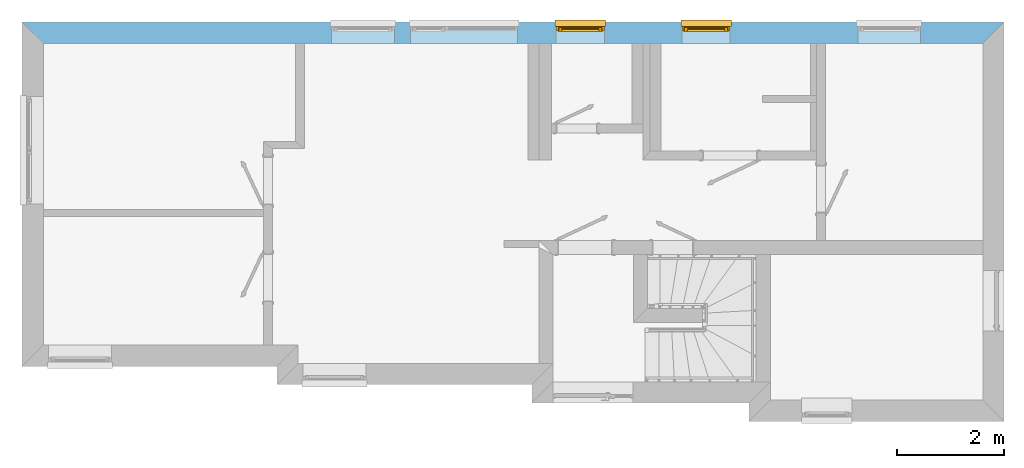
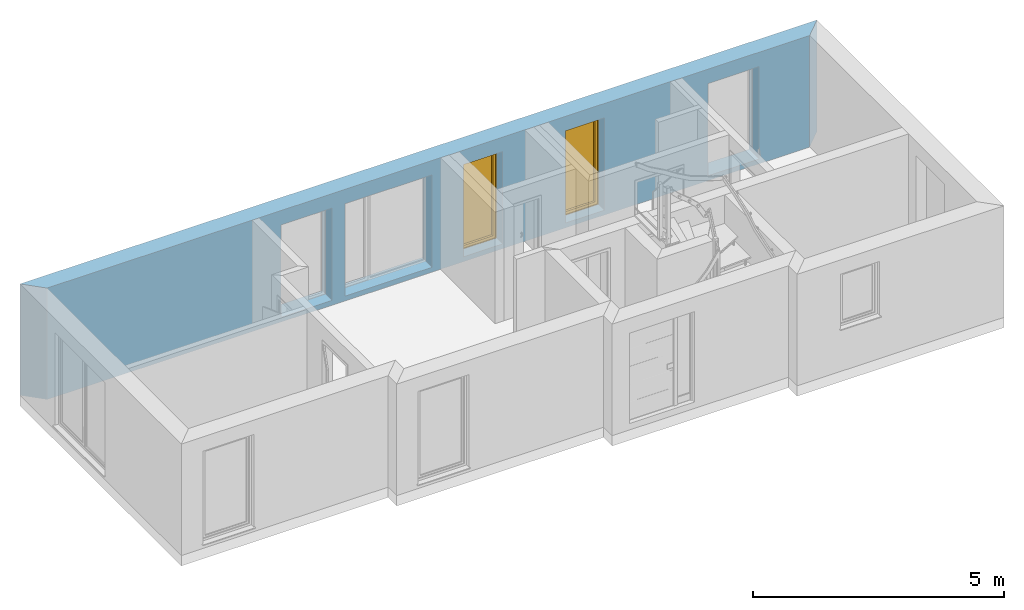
# One storey, part 9 of 13: 2 windows, 5 openings, plus 1 element that does not belong to this part.
"""IFC2X3 building model written with IfcOpenShell, lengths in millimetres."""

import ifcopenshell
import ifcopenshell.guid

model = None  # the IFC model being written
_history = None  # IfcOwnerHistory: only IFC2X3 demands one
_inside = {}  # id of a spatial element -> (the spatial element, [elements in it])
_under = {}  # id of a project, library or spatial element -> (it, [spatial elements below it])
_declared = {}  # id of a project -> (the project, [libraries it declares])
_typed = {}  # id of a type object -> (the type object, [elements of that type])
_made_of = {}  # id of a material, layer set ... -> (it, [elements and type objects made of it])


def new_model(schema):
    """Start an empty IFC model of exactly this schema.

    Asked for "IFC4X3", IfcOpenShell would pick the latest addendum, in which some entities
    have other attributes; the version numbers below select the first issue.
    IFC2X3 requires an IfcOwnerHistory on every rooted entity: one is made here for all.
    """
    global model, _history
    if schema == "IFC4X3":
        model = ifcopenshell.file(schema_version=(4, 3, 0, 0))
    else:
        model = ifcopenshell.file(schema=schema)
    _inside.clear()
    _under.clear()
    _declared.clear()
    _typed.clear()
    _made_of.clear()
    _history = None
    if model.schema == "IFC2X3":
        org = make("IfcOrganization", Name="unknown")
        user = make(
            "IfcPersonAndOrganization",
            ThePerson=make("IfcPerson", FamilyName="unknown"),
            TheOrganization=org,
        )
        app = make(
            "IfcApplication",
            ApplicationDeveloper=org,
            Version="unknown",
            ApplicationFullName="unknown",
            ApplicationIdentifier="unknown",
        )
        _history = make(
            "IfcOwnerHistory",
            OwningUser=user,
            OwningApplication=app,
            ChangeAction="ADDED",
            CreationDate=0,
        )
    return model


def make(cls, **values):
    """One entity of the class cls with the attributes given. An attribute that is None is left unset."""
    return model.create_entity(
        cls, **{name: value for name, value in values.items() if value is not None}
    )


def rooted(cls, **values):
    """An entity with a GlobalId (a new one), such as an element, a storey or a relation."""
    return make(cls, GlobalId=ifcopenshell.guid.new(), OwnerHistory=_history, **values)


def si_unit(unit_type, name, prefix=None):
    """IfcSIUnit, for example si_unit("LENGTHUNIT", "METRE", prefix="MILLI")."""
    return make("IfcSIUnit", UnitType=unit_type, Prefix=prefix, Name=name)


def assignment(units):
    """IfcUnitAssignment: the units of a project."""
    return None if units is None else make("IfcUnitAssignment", Units=units)


def point(xyz):
    """IfcCartesianPoint."""
    return None if xyz is None else make("IfcCartesianPoint", Coordinates=xyz)


def direction(xyz):
    """IfcDirection."""
    return None if xyz is None else make("IfcDirection", DirectionRatios=xyz)


def frame(location, z_axis=None, x_axis=None):
    """IfcAxis2Placement3D, a coordinate frame: its origin and axes. An axis left out is left unset."""
    return make(
        "IfcAxis2Placement3D",
        Location=point(location),
        Axis=direction(z_axis),
        RefDirection=direction(x_axis),
    )


def origin_with_axes():
    """The frame at (0, 0, 0) with the z axis (0, 0, 1) and the x axis (1, 0, 0) written out."""
    return frame((0.0, 0.0, 0.0), z_axis=(0.0, 0.0, 1.0), x_axis=(1.0, 0.0, 0.0))


def place(relative_to, where):
    """IfcLocalPlacement: puts the frame where relative to a parent placement (None: the world)."""
    return make(
        "IfcLocalPlacement", PlacementRelTo=relative_to, RelativePlacement=where
    )


def context(
    kind, dimensions, precision=None, world=None, true_north=None, identifier=None
):
    """IfcGeometricRepresentationContext, for example the 3D "Model" context."""
    return make(
        "IfcGeometricRepresentationContext",
        ContextIdentifier=identifier,
        ContextType=kind,
        CoordinateSpaceDimension=dimensions,
        Precision=precision,
        WorldCoordinateSystem=world,
        TrueNorth=true_north,
    )


def project(units=None, contexts=None):
    """IfcProject with its units and contexts."""
    return rooted(
        "IfcProject",
        Name="project",
        RepresentationContexts=contexts,
        UnitsInContext=assignment(units),
    )


def spatial(cls, under=None, at=None, **own):
    """A site, building, storey or space (cls), placed at a placement, below another one or the project."""
    s = rooted(cls, ObjectPlacement=at, **own)
    if under is not None:
        _under.setdefault(under.id(), (under, []))[1].append(s)
    return s


def faces_of(points, faces, orient=None, outer=None):
    """IfcFace entities. A face is a list of loops; a loop is a list of indices into points, from 0.

    orient and outer hold one flag for each loop. By default every Orientation is true, the
    first loop of a face is its IfcFaceOuterBound and the others are IfcFaceBound.
    """
    made = []
    for i, loops in enumerate(faces):
        bounds = []
        for j, loop in enumerate(loops):
            is_outer = j == 0 if outer is None else outer[i][j]
            bounds.append(
                make(
                    "IfcFaceOuterBound" if is_outer else "IfcFaceBound",
                    Bound=make("IfcPolyLoop", Polygon=[points[k] for k in loop]),
                    Orientation=True if orient is None else orient[i][j],
                )
            )
        made.append(make("IfcFace", Bounds=bounds))
    return made


def faceted_brep(points, faces, orient=None, outer=None, voids=None):
    """IfcFacetedBrep: a solid bounded by flat faces; with voids (closed shells), ...WithVoids."""
    shared = [point(p) for p in points]
    hull = make("IfcClosedShell", CfsFaces=faces_of(shared, faces, orient, outer))
    if voids is None:
        return make("IfcFacetedBrep", Outer=hull)
    return make(
        "IfcFacetedBrepWithVoids",
        Outer=hull,
        Voids=[
            make(cls, CfsFaces=faces_of(shared, fs, o, b)) for cls, fs, o, b in voids
        ],
    )


def shape(context_of_items, identifier, shape_type, items):
    """IfcShapeRepresentation: the items that make up one representation, for example the "Body"."""
    return make(
        "IfcShapeRepresentation",
        ContextOfItems=context_of_items,
        RepresentationIdentifier=identifier,
        RepresentationType=shape_type,
        Items=items,
    )


def material(Name=None, Category=None):
    """IfcMaterial."""
    return make("IfcMaterial", Name=Name, Category=Category)


def layer(
    of_material, thickness, ventilated=None, Name=None, Category=None, Priority=None
):
    """IfcMaterialLayer: one layer of a wall or slab, of a material (None: an air gap)."""
    return make(
        "IfcMaterialLayer",
        Material=of_material,
        LayerThickness=thickness,
        IsVentilated=ventilated,
        Name=Name,
        Category=Category,
        Priority=Priority,
    )


def layer_set(layers, Name=None):
    """IfcMaterialLayerSet."""
    return make("IfcMaterialLayerSet", MaterialLayers=layers, LayerSetName=Name)


def layer_usage(for_layer_set, set_direction, sense, offset, extent=None):
    """IfcMaterialLayerSetUsage: how a layer set lies in its element."""
    return make(
        "IfcMaterialLayerSetUsage",
        ForLayerSet=for_layer_set,
        LayerSetDirection=set_direction,
        DirectionSense=sense,
        OffsetFromReferenceLine=offset,
        ReferenceExtent=extent,
    )


def made_of(thing, what):
    """Note that an element or type object is made of a material, layer set ...; save() writes the relation."""
    if what is not None:
        _made_of.setdefault(what.id(), (what, []))[1].append(thing)
    return thing


def type_object(cls, material=None, **own):
    """A type object (cls), such as IfcWallType, which elements share."""
    return made_of(rooted(cls, **own), material)


def element(
    cls,
    number,
    at=None,
    inside=None,
    cuts=None,
    type_object=None,
    material=None,
    context=None,
    identifier="Body",
    shape_type=None,
    held_by="IfcProductDefinitionShape",
    body=None,
    shapes=None,
    **own,
):
    """One element of the class cls, such as IfcWall. Its Tag is "e" and its number.

    at: its placement. inside: the storey or other place that contains it. cuts: it is an
    opening in that element (IfcRelVoidsElement). A single representation is given by context,
    identifier, shape_type and body (its items); several are given by shapes. held_by: the class
    of the entity that holds the representations. save() writes the other relations.
    """
    e = rooted(cls, Tag="e%d" % number, ObjectPlacement=at, **own)
    if body is not None:
        shapes = [shape(context, identifier, shape_type, body)]
    if shapes is not None:
        e.Representation = make(held_by, Representations=shapes)
    if inside is not None:
        _inside.setdefault(inside.id(), (inside, []))[1].append(e)
    if cuts is not None:
        rooted(
            "IfcRelVoidsElement", RelatingBuildingElement=cuts, RelatedOpeningElement=e
        )
    if type_object is not None:
        _typed.setdefault(type_object.id(), (type_object, []))[1].append(e)
    return made_of(e, material)


def fill(opening, filler):
    """IfcRelFillsElement: the door or window that sits in an opening."""
    return rooted(
        "IfcRelFillsElement",
        RelatingOpeningElement=opening,
        RelatedBuildingElement=filler,
    )


def aggregate(whole, parts):
    """IfcRelAggregates: a whole, such as a stair, and the parts it consists of."""
    return rooted("IfcRelAggregates", RelatingObject=whole, RelatedObjects=parts)


def save(model, path):
    """Write the relations noted so far, then the file.

    IfcRelAggregates (storeys below a building ...), IfcRelContainedInSpatialStructure (elements
    in a storey), IfcRelDefinesByType, IfcRelAssociatesMaterial and IfcRelDeclares: one each for
    every whole, place, type object, material and project.
    """
    for whole, parts in _under.values():
        aggregate(whole, parts)
    for where, things in _inside.values():
        rooted(
            "IfcRelContainedInSpatialStructure",
            RelatedElements=things,
            RelatingStructure=where,
        )
    for kind, things in _typed.values():
        rooted("IfcRelDefinesByType", RelatedObjects=things, RelatingType=kind)
    for what, things in _made_of.values():
        rooted("IfcRelAssociatesMaterial", RelatedObjects=things, RelatingMaterial=what)
    for by, libraries in _declared.values():
        rooted("IfcRelDeclares", RelatingContext=by, RelatedDefinitions=libraries)
    model.write(path)


model = new_model("IFC2X3")

# Units and contexts
model_context = context("Model", 3, world=origin_with_axes())
ifc_project = project(units=[si_unit("LENGTHUNIT", "METRE", prefix="MILLI")], contexts=[model_context])

# Site, building, storey
site_placement = place(None, origin_with_axes())
site = spatial("IfcSite", under=ifc_project, at=site_placement, Name="Site", CompositionType="ELEMENT")
building_placement = place(site_placement, origin_with_axes())
building = spatial("IfcBuilding", under=site, at=building_placement, Name="?", CompositionType="ELEMENT")
storey_placement = place(building_placement, origin_with_axes())
storey = spatial("IfcBuildingStorey", under=building, at=storey_placement, Name="Erdgeschoß", CompositionType="ELEMENT", Elevation=0.0)

# Wall, openings, windows
ifc_material = material(Name="Material_AW")
ifc_layer = layer(ifc_material, 395.0, ventilated=False)
ifc_layer_set = layer_set([ifc_layer], Name="MaterialLayerSet_AW")
ifc_layer_usage = layer_usage(ifc_layer_set, "AXIS2", "NEGATIVE", 197.5)
wall_placement = place(storey_placement, frame((197.5, -197.5, 0.0), z_axis=(0.0, 0.0, 1.0), x_axis=(1.0, 0.0, 0.0)))
wall = element("IfcWall", 1, at=wall_placement, inside=storey, material=ifc_layer_usage, Name="AW-01", context=model_context, shape_type="Brep", body=[
    faceted_brep([(17707.5008600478, -197.5, 0.0), (17707.5008600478, -197.5, 2707.0), (197.5, -197.5, 2707.0), (197.5, -197.5, 0.0), (18102.5001275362, 197.499999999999, 0.0), (18102.5001275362, 197.499999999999, 150.0), (18102.5001275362, 197.499999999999, 2707.0), (17707.5008600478, -197.500000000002, 2707.0), (17707.5008600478, -197.500000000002, 0.0), (-197.500233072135, 197.5, 0.0), (-197.500233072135, 197.5, 150.0), (5569.5, 197.5, 150.0), (5569.5, 197.5, 116.0), (6739.5, 197.5, 116.0), (6739.5, 197.5, 150.0), (7039.5, 197.5, 150.0), (7039.5, 197.5, 116.0), (9039.5, 197.5, 116.0), (9039.5, 197.5, 150.0), (9755.5, 197.5, 150.0), (9755.5, 197.5, 116.0), (10655.5, 197.5, 116.0), (10655.5, 197.5, 150.0), (12099.5, 197.5, 150.0), (12099.5, 197.5, 116.0), (12999.5, 197.5, 116.0), (12999.5, 197.5, 150.0), (15377.5, 197.5, 150.0), (15377.5, 197.5, 116.0), (16547.5, 197.5, 116.0), (16547.5, 197.5, 150.0), (18102.5001275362, 197.5, 150.0), (18102.5001275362, 197.5, 0.0), (-197.500233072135, 197.5, 150.0), (-197.500233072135, 197.5, 2707.0), (18102.5001275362, 197.5, 2707.0), (18102.5001275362, 197.5, 150.0), (16547.5, 197.5, 150.0), (16547.5, 197.5, 116.0), (15377.5, 197.5, 116.0), (15377.5, 197.5, 150.0), (12999.5, 197.5, 150.0), (12999.5, 197.5, 116.0), (12099.5, 197.5, 116.0), (12099.5, 197.5, 150.0), (10655.5, 197.5, 150.0), (10655.5, 197.5, 116.0), (9755.5, 197.5, 116.0), (9755.5, 197.5, 150.0), (9039.5, 197.5, 150.0), (9039.5, 197.5, 116.0), (7039.5, 197.5, 116.0), (7039.5, 197.5, 150.0), (6739.5, 197.5, 150.0), (6739.5, 197.5, 116.0), (5569.5, 197.5, 116.0), (5569.5, 197.5, 150.0), (197.5, -197.5, 0.0), (197.5, -197.5, 2707.0), (-197.500233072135, 197.5, 2707.0), (-197.500233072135, 197.5, 150.0), (-197.500233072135, 197.5, 0.0), (197.5, -197.5, 0.0), (-197.500233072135, 197.5, 0.0), (18102.5001275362, 197.5, 0.0), (17707.5008600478, -197.5, 0.0), (-197.500233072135, 197.5, 2707.0), (197.5, -197.5, 2707.0), (17707.5008600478, -197.5, 2707.0), (18102.5001275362, 197.5, 2707.0)], [[[0, 1, 2, 3]], [[4, 5, 6, 7, 8]], [[9, 10, 11, 12, 13, 14, 15, 16, 17, 18, 19, 20, 21, 22, 23, 24, 25, 26, 27, 28, 29, 30, 31, 32]], [[33, 34, 35, 36, 37, 38, 39, 40, 41, 42, 43, 44, 45, 46, 47, 48, 49, 50, 51, 52, 53, 54, 55, 56]], [[57, 58, 59, 60, 61]], [[62, 63, 64, 65]], [[66, 67, 68, 69]]]),
])
opening_1_placement = place(wall_placement, frame((5569.5, 0.0, 116.0), z_axis=(0.0, 0.0, 1.0), x_axis=(1.0, 0.0, 0.0)))
element("IfcOpeningElement", 2, at=opening_1_placement, cuts=wall, Name="AW-01|FE01", context=model_context, shape_type="Brep", body=[
    faceted_brep([(0.0, 207.5, 0.0), (0.0, 207.5, 2244.0), (1170.0, 207.5, 2244.0), (1170.0, 207.5, 0.0), (0.0, -207.5, 0.0), (0.0, -207.5, 2244.0), (0.0, 207.5, 2244.0), (0.0, 207.5, 0.0), (1170.0, -207.5, 0.0), (0.0, -207.5, 0.0), (0.0, 207.5, 0.0), (1170.0, 207.5, 0.0), (1170.0, -207.5, 2244.0), (1170.0, -207.5, 0.0), (1170.0, 207.5, 0.0), (1170.0, 207.5, 2244.0), (0.0, -207.5, 2244.0), (1170.0, -207.5, 2244.0), (1170.0, 207.5, 2244.0), (0.0, 207.5, 2244.0), (0.0, -207.5, 0.0), (1170.0, -207.5, 0.0), (1170.0, -207.5, 2244.0), (0.0, -207.5, 2244.0)], [[[0, 1, 2, 3]], [[4, 5, 6, 7]], [[8, 9, 10, 11]], [[12, 13, 14, 15]], [[16, 17, 18, 19]], [[20, 21, 22, 23]]]),
])
opening_2_placement = place(wall_placement, frame((7039.5, 0.0, 116.0), z_axis=(0.0, 0.0, 1.0), x_axis=(1.0, 0.0, 0.0)))
element("IfcOpeningElement", 3, at=opening_2_placement, cuts=wall, Name="AW-01|FE02", context=model_context, shape_type="Brep", body=[
    faceted_brep([(0.0, 207.5, 0.0), (0.0, 207.5, 2244.0), (2000.0, 207.5, 2244.0), (2000.0, 207.5, 0.0), (0.0, -207.5, 0.0), (0.0, -207.5, 2244.0), (0.0, 207.5, 2244.0), (0.0, 207.5, 0.0), (2000.0, -207.5, 0.0), (0.0, -207.5, 0.0), (0.0, 207.5, 0.0), (2000.0, 207.5, 0.0), (2000.0, -207.5, 2244.0), (2000.0, -207.5, 0.0), (2000.0, 207.5, 0.0), (2000.0, 207.5, 2244.0), (0.0, -207.5, 2244.0), (2000.0, -207.5, 2244.0), (2000.0, 207.5, 2244.0), (0.0, 207.5, 2244.0), (0.0, -207.5, 0.0), (2000.0, -207.5, 0.0), (2000.0, -207.5, 2244.0), (0.0, -207.5, 2244.0)], [[[0, 1, 2, 3]], [[4, 5, 6, 7]], [[8, 9, 10, 11]], [[12, 13, 14, 15]], [[16, 17, 18, 19]], [[20, 21, 22, 23]]]),
])
opening_3_placement = place(wall_placement, frame((9755.5, 0.0, 116.0), z_axis=(0.0, 0.0, 1.0), x_axis=(1.0, 0.0, 0.0)))
opening_3 = element("IfcOpeningElement", 4, at=opening_3_placement, cuts=wall, Name="AW-01|FE03", context=model_context, shape_type="Brep", body=[
    faceted_brep([(0.0, 207.5, 0.0), (0.0, 207.5, 2244.0), (900.0, 207.5, 2244.0), (900.0, 207.5, 0.0), (0.0, -207.5, 0.0), (0.0, -207.5, 2244.0), (0.0, 207.5, 2244.0), (0.0, 207.5, 0.0), (900.0, -207.5, 0.0), (0.0, -207.5, 0.0), (0.0, 207.5, 0.0), (900.0, 207.5, 0.0), (900.0, -207.5, 2244.0), (900.0, -207.5, 0.0), (900.0, 207.5, 0.0), (900.0, 207.5, 2244.0), (0.0, -207.5, 2244.0), (900.0, -207.5, 2244.0), (900.0, 207.5, 2244.0), (0.0, 207.5, 2244.0), (0.0, -207.5, 0.0), (900.0, -207.5, 0.0), (900.0, -207.5, 2244.0), (0.0, -207.5, 2244.0)], [[[0, 1, 2, 3]], [[4, 5, 6, 7]], [[8, 9, 10, 11]], [[12, 13, 14, 15]], [[16, 17, 18, 19]], [[20, 21, 22, 23]]]),
])
opening_4_placement = place(wall_placement, frame((12099.5, 0.0, 116.0), z_axis=(0.0, 0.0, 1.0), x_axis=(1.0, 0.0, 0.0)))
opening_4 = element("IfcOpeningElement", 5, at=opening_4_placement, cuts=wall, Name="AW-01|FE04", context=model_context, shape_type="Brep", body=[
    faceted_brep([(0.0, 207.5, 0.0), (0.0, 207.5, 2244.0), (900.0, 207.5, 2244.0), (900.0, 207.5, 0.0), (0.0, -207.5, 0.0), (0.0, -207.5, 2244.0), (0.0, 207.5, 2244.0), (0.0, 207.5, 0.0), (900.0, -207.5, 0.0), (0.0, -207.5, 0.0), (0.0, 207.5, 0.0), (900.0, 207.5, 0.0), (900.0, -207.5, 2244.0), (900.0, -207.5, 0.0), (900.0, 207.5, 0.0), (900.0, 207.5, 2244.0), (0.0, -207.5, 2244.0), (900.0, -207.5, 2244.0), (900.0, 207.5, 2244.0), (0.0, 207.5, 2244.0), (0.0, -207.5, 0.0), (900.0, -207.5, 0.0), (900.0, -207.5, 2244.0), (0.0, -207.5, 2244.0)], [[[0, 1, 2, 3]], [[4, 5, 6, 7]], [[8, 9, 10, 11]], [[12, 13, 14, 15]], [[16, 17, 18, 19]], [[20, 21, 22, 23]]]),
])
opening_5_placement = place(wall_placement, frame((15377.5, 0.0, 116.0), z_axis=(0.0, 0.0, 1.0), x_axis=(1.0, 0.0, 0.0)))
element("IfcOpeningElement", 6, at=opening_5_placement, cuts=wall, Name="AW-01|FE05", context=model_context, shape_type="Brep", body=[
    faceted_brep([(0.0, 207.5, 0.0), (0.0, 207.5, 2244.0), (1170.0, 207.5, 2244.0), (1170.0, 207.5, 0.0), (0.0, -207.5, 0.0), (0.0, -207.5, 2244.0), (0.0, 207.5, 2244.0), (0.0, 207.5, 0.0), (1170.0, -207.5, 0.0), (0.0, -207.5, 0.0), (0.0, 207.5, 0.0), (1170.0, 207.5, 0.0), (1170.0, -207.5, 2244.0), (1170.0, -207.5, 0.0), (1170.0, 207.5, 0.0), (1170.0, 207.5, 2244.0), (0.0, -207.5, 2244.0), (1170.0, -207.5, 2244.0), (1170.0, 207.5, 2244.0), (0.0, 207.5, 2244.0), (0.0, -207.5, 0.0), (1170.0, -207.5, 0.0), (1170.0, -207.5, 2244.0), (0.0, -207.5, 2244.0)], [[[0, 1, 2, 3]], [[4, 5, 6, 7]], [[8, 9, 10, 11]], [[12, 13, 14, 15]], [[16, 17, 18, 19]], [[20, 21, 22, 23]]]),
])
window_style_1 = type_object("IfcWindowStyle", Name="FE03", ConstructionType="NOTDEFINED", OperationType="SINGLE_PANEL", ParameterTakesPrecedence=True, Sizeable=False)
window_1_placement = place(opening_3_placement, frame((900.0, 77.5, 0.0), z_axis=(0.0, 0.0, 1.0), x_axis=(-1.0, 0.0, 0.0)))
window_1 = element("IfcWindow", 7, at=window_1_placement, inside=storey, type_object=window_style_1, Name="FE03", OverallHeight=2244.0, OverallWidth=900.0, context=model_context, shape_type="Brep", body=[
    faceted_brep([(0.0, -36.0, 0.0), (900.0, -36.0, 0.0), (885.0, -36.0, 15.0), (15.0, -36.0, 15.0), (15.0, 36.0, 15.0), (885.0, 36.0, 15.0), (900.0, 36.0, 0.0), (0.0, 36.0, 0.0), (0.0, 36.0, 0.0), (900.0, 36.0, 0.0), (900.0, -36.0, 0.0), (0.0, -36.0, 0.0), (900.0, -36.0, 0.0), (900.0, -36.0, 2244.0), (885.0, -36.0, 2229.0), (885.0, -36.0, 15.0), (885.0, 36.0, 15.0004730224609), (885.0, 36.0, 2229.00048828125), (900.0, 36.0, 2244.00048828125), (900.0, 36.0, 0.0004730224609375), (900.0, 36.0, 0.0), (900.0, 36.0, 2244.0), (900.0, -36.0, 2244.0), (900.0, -36.0, 0.0), (900.0, -36.0, 2244.0), (0.0, -36.0, 2244.0), (15.0, -36.0, 2229.0), (885.0, -36.0, 2229.0), (885.0, 36.0, 2229.0), (15.0, 36.0, 2229.0), (0.0, 36.0, 2244.0), (900.0, 36.0, 2244.0), (900.0, 36.0, 2244.0), (0.0, 36.0, 2244.0), (0.0, -36.0, 2244.0), (900.0, -36.0, 2244.0), (0.0, -36.0, 2244.0), (0.0, -36.0, 0.0), (15.0, -36.0, 15.0), (15.0, -36.0, 2229.0), (15.0, 36.0, 2228.99951171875), (15.0, 36.0, 14.99951171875), (0.0, 36.0, -0.00048828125), (0.0, 36.0, 2243.99951171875), (0.0, 36.0, 2244.0), (0.0, 36.0, 0.0), (0.0, -36.0, 0.0), (0.0, -36.0, 2244.0), (885.0, 36.0, 15.0), (15.0, 36.0, 15.0), (43.0, 36.0, 43.0), (857.0, 36.0, 43.0), (857.0, 36.0, 43.0), (43.0, 36.0, 43.0), (43.0, -21.0, 43.0), (857.0, -21.0, 43.0), (857.0, -21.0, 43.0), (43.0, -21.0, 43.0), (60.0, -21.0, 60.0), (840.0, -21.0, 60.0), (840.0, -21.0, 60.0), (60.0, -21.0, 60.0), (60.0, -25.0, 60.0), (840.0, -25.0, 60.0), (840.0, -25.0, 60.0), (59.9999999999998, -25.0, 60.0), (52.9999999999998, -36.0014646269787, 52.9991454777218), (847.0, -36.0014646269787, 52.9991454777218), (847.0009765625, -36.0, 53.0), (53.0009765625, -36.0, 53.0), (15.0009765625, -36.0, 15.0), (885.0009765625, -36.0, 15.0), (885.0, 36.0, 2229.0), (885.0, 36.0, 15.0), (857.0, 36.0, 43.0), (857.0, 36.0, 2201.0), (857.0, 36.0, 2201.00024414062), (857.0, 36.0, 43.000244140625), (857.0, -21.0, 43.000244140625), (857.0, -21.0, 2201.00024414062), (857.0, -21.0, 2201.00024414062), (857.0, -21.0, 43.000244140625), (840.0, -21.0, 60.000244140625), (840.0, -21.0, 2184.00024414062), (840.0, -21.0, 2183.99926757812), (840.0, -21.0, 59.999267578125), (840.0, -25.0, 59.999267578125), (840.0, -25.0, 2183.99926757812), (840.0, -25.0, 2183.99926757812), (840.0, -25.0, 59.999267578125), (847.000976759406, -36.0014647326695, 52.999267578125), (847.000976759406, -36.0014647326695, 2190.99926757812), (847.0, -36.0, 2191.0), (847.0, -36.0, 53.0), (885.0, -36.0, 15.0), (885.0, -36.0, 2229.0), (15.0, 36.0, 2229.0), (885.0, 36.0, 2229.0), (857.0, 36.0, 2201.0), (43.0, 36.0, 2201.0), (43.0, 36.0, 2201.0), (857.0, 36.0, 2201.0), (857.0, -21.0, 2201.0), (43.0, -21.0, 2201.0), (43.0, -21.0, 2201.0), (857.0, -21.0, 2201.0), (840.0, -21.0, 2184.0), (60.0, -21.0, 2184.0), (60.0, -21.0, 2184.0), (840.0, -21.0, 2184.0), (840.0, -25.0, 2184.0), (60.0, -25.0, 2184.0), (60.0, -25.0, 2184.0), (840.0, -25.0, 2184.0), (847.0, -36.0014645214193, 2191.00073228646), (53.0, -36.0014645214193, 2191.00073228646), (52.9990234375, -36.0, 2191.0), (846.9990234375, -36.0, 2191.0), (884.9990234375, -36.0, 2229.0), (14.9990234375, -36.0, 2229.0), (15.0, 36.0, 15.0), (15.0, 36.0, 2229.0), (43.0, 36.0, 2201.0), (43.0, 36.0, 43.0), (43.0, 36.0, 42.9997711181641), (43.0, 36.0, 2200.99975585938), (43.0, -21.0, 2200.99975585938), (43.0, -21.0, 42.9997711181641), (43.0, -21.0, 42.9997711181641), (43.0, -21.0, 2200.99975585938), (60.0, -21.0, 2183.99975585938), (60.0, -21.0, 59.9997711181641), (60.0, -21.0, 59.9993286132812), (60.0, -21.0, 2183.99926757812), (60.0, -25.0, 2183.99926757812), (60.0, -25.0, 59.9993286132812), (60.0, -25.0, 59.9993286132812), (60.0, -25.0, 2183.99926757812), (53.0000001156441, -36.0017091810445, 2190.99926757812), (53.0000001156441, -36.0017091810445, 52.9993286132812), (53.0, -36.0, 52.9993896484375), (53.0, -36.0, 2190.99951171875), (15.0, -36.0, 2228.99951171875), (15.0, -36.0, 14.9993896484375), (867.0, 52.0, 33.0), (33.0, 52.0, 33.0), (96.0, 52.0, 96.0), (804.0, 52.0, 96.0), (804.0, 52.0, 96.0), (96.0, 52.0, 96.0), (110.0, 19.9985349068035, 110.000610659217), (790.0, 19.9985349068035, 110.000610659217), (790.0, 20.0, 110.0), (110.0, 20.0, 110.0), (103.0, 20.0, 103.0), (797.0, 20.0, 103.0), (797.0, 20.0, 103.0), (103.0, 20.0, 103.0), (103.0, -4.0, 103.0), (797.0, -4.0, 103.0), (797.0, -4.0, 103.0), (103.0, -4.0, 103.0), (110.0, -4.0, 110.0), (790.0, -4.0, 110.0), (790.000000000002, -4.0, 110.0), (110.000000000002, -4.0, 110.0), (102.000000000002, -21.0014648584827, 101.999267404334), (798.000000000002, -21.0014648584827, 101.999267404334), (798.0, -21.0, 102.0), (102.0, -21.0, 102.0), (51.0, -21.0, 51.0), (849.0, -21.0, 51.0), (849.0, -21.0, 51.0), (51.0, -21.0, 51.0), (51.0, 36.0, 51.0), (849.0, 36.0, 51.0), (849.0, 36.0, 51.0), (51.0, 36.0, 51.0), (33.0, 36.0, 33.0), (867.0, 36.0, 33.0), (867.0, 36.0, 33.0), (33.0, 36.0, 33.0), (33.0, 52.0, 33.0), (867.0, 52.0, 33.0), (867.0, 52.0, 2211.00024414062), (867.0, 52.0, 33.000244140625), (804.0, 52.0, 96.000244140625), (804.0, 52.0, 2148.00024414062), (804.0, 52.0, 2148.00024414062), (804.0, 52.0, 96.000244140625), (790.000000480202, 19.9982917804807, 110.000244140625), (790.000000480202, 19.9982917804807, 2134.00024414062), (790.0, 20.0, 2134.00024414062), (790.0, 20.0, 110.000244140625), (797.0, 20.0, 103.000244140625), (797.0, 20.0, 2141.00024414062), (797.0, 20.0, 2140.99951171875), (797.0, 20.0, 102.99951171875), (797.0, -4.0, 102.99951171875), (797.0, -4.0, 2140.99951171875), (797.0, -4.0, 2140.99951171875), (797.0, -4.0, 102.99951171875), (790.0, -4.0, 109.99951171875), (790.0, -4.0, 2133.99951171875), (790.0, -4.0, 2134.00024414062), (790.0, -4.0, 110.000244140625), (798.000000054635, -21.001708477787, 102.000244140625), (798.000000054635, -21.001708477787, 2142.00024414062), (798.0, -21.0, 2141.99951171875), (798.0, -21.0, 101.99951171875), (849.0, -21.0, 50.99951171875), (849.0, -21.0, 2192.99951171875), (849.0, -21.0, 2192.99951171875), (849.0, -21.0, 50.99951171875), (849.0, 36.0, 50.99951171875), (849.0, 36.0, 2192.99951171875), (849.0, 36.0, 2192.99951171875), (849.0, 36.0, 50.99951171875), (867.0, 36.0, 32.99951171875), (867.0, 36.0, 2210.99951171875), (867.0, 36.0, 2211.00024414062), (867.0, 36.0, 33.000244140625), (867.0, 52.0, 33.000244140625), (867.0, 52.0, 2211.00024414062), (33.0, 52.0, 2211.0), (867.0, 52.0, 2211.0), (804.0, 52.0, 2148.0), (96.0, 52.0, 2148.0), (95.9999999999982, 52.0, 2148.0), (803.999999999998, 52.0, 2148.0), (789.999999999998, 19.998536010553, 2133.99951201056), (109.999999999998, 19.998536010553, 2133.99951201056), (110.0, 20.0, 2134.0), (790.0, 20.0, 2134.0), (797.0, 20.0, 2141.0), (103.0, 20.0, 2141.0), (103.0, 20.0, 2141.0), (797.0, 20.0, 2141.0), (797.0, -4.0, 2141.0), (103.0, -4.0, 2141.0), (103.0, -4.0, 2141.0), (797.0, -4.0, 2141.0), (790.0, -4.0, 2134.0), (110.0, -4.0, 2134.0), (110.0, -4.0, 2134.0), (790.0, -4.0, 2134.0), (798.0, -21.0014648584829, 2142.00073259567), (102.0, -21.0014648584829, 2142.00073259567), (102.0, -21.0, 2142.0), (798.0, -21.0, 2142.0), (849.0, -21.0, 2193.0), (51.0, -21.0, 2193.0), (51.0, -21.0, 2193.0), (849.0, -21.0, 2193.0), (849.0, 36.0, 2193.0), (51.0, 36.0, 2193.0), (51.0, 36.0, 2193.0), (849.0, 36.0, 2193.0), (867.0, 36.0, 2211.0), (33.0, 36.0, 2211.0), (33.0, 36.0, 2211.0), (867.0, 36.0, 2211.0), (867.0, 52.0, 2211.0), (33.0, 52.0, 2211.0), (33.0, 52.0, 32.9996795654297), (33.0, 52.0, 2210.99975585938), (96.0, 52.0, 2147.99975585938), (96.0, 52.0, 95.9996795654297), (96.0, 52.0, 95.9998474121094), (96.0, 52.0, 2147.99975585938), (110.000976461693, 19.9987802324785, 2133.99975585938), (110.000976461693, 19.9987802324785, 109.999847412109), (110.0, 20.0, 109.999740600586), (110.0, 20.0, 2133.99975585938), (103.0, 20.0, 2140.99975585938), (103.0, 20.0, 102.999740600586), (103.0, 20.0, 102.999801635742), (103.0, 20.0, 2140.99975585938), (103.0, -4.0, 2140.99975585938), (103.0, -4.0, 102.999801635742), (103.0, -4.0, 102.999801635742), (103.0, -4.0, 2140.99975585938), (110.0, -4.0, 2133.99975585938), (110.0, -4.0, 109.999801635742), (110.0, -4.0, 109.999740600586), (110.0, -4.0, 2133.99975585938), (101.999023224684, -21.0014648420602, 2141.99975585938), (101.999023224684, -21.0014648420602, 101.999740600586), (102.0, -21.0, 101.999908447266), (102.0, -21.0, 2142.0), (51.0, -21.0, 2193.0), (51.0, -21.0, 50.9999084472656), (51.0, -21.0, 50.9998321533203), (51.0, -21.0, 2192.99975585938), (51.0, 36.0, 2192.99975585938), (51.0, 36.0, 50.9998321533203), (51.0, 36.0, 50.9998321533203), (51.0, 36.0, 2192.99975585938), (33.0, 36.0, 2210.99975585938), (33.0, 36.0, 32.9998321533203), (33.0, 36.0, 32.9996795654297), (33.0, 36.0, 2210.99975585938), (33.0, 52.0, 2210.99975585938), (33.0, 52.0, 32.9996795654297), (110.0, 20.0, 110.0), (110.0, 20.0, 2134.0), (790.0, 20.0, 2134.0), (790.0, 20.0, 110.0), (110.0, -4.0, 110.0), (790.0, -4.0, 110.0), (790.0, -4.0, 2134.0), (110.0, -4.0, 2134.0), (-20.0, -36.0, 0.5), (-20.0, -160.0, 0.5), (920.0, -160.0, 0.5), (920.0, -36.0, 0.5), (-20.0, -36.0, -19.5), (-20.0, -36.0, 0.5), (920.0, -36.0, 0.5), (920.0, -36.0, -19.5), (-20.0, -160.0, -19.5), (-20.0, -36.0, -19.5), (920.0, -36.0, -19.5), (920.0, -160.0, -19.5), (-20.0, -160.0, 0.5), (-20.0, -160.0, -19.5), (920.0, -160.0, -19.5), (920.0, -160.0, 0.5), (-20.0, -160.0, -19.5), (-20.0, -160.0, 0.5), (-20.0, -36.0, 0.5), (-20.0, -36.0, -19.5), (920.0, -160.0, 0.5), (920.0, -160.0, -19.5), (920.0, -36.0, -19.5), (920.0, -36.0, 0.5)], [[[0, 1, 2, 3]], [[4, 5, 6, 7]], [[8, 9, 10, 11]], [[12, 13, 14, 15]], [[16, 17, 18, 19]], [[20, 21, 22, 23]], [[24, 25, 26, 27]], [[28, 29, 30, 31]], [[32, 33, 34, 35]], [[36, 37, 38, 39]], [[40, 41, 42, 43]], [[44, 45, 46, 47]], [[48, 49, 50, 51]], [[52, 53, 54, 55]], [[56, 57, 58, 59]], [[60, 61, 62, 63]], [[64, 65, 66, 67]], [[68, 69, 70, 71]], [[72, 73, 74, 75]], [[76, 77, 78, 79]], [[80, 81, 82, 83]], [[84, 85, 86, 87]], [[88, 89, 90, 91]], [[92, 93, 94, 95]], [[96, 97, 98, 99]], [[100, 101, 102, 103]], [[104, 105, 106, 107]], [[108, 109, 110, 111]], [[112, 113, 114, 115]], [[116, 117, 118, 119]], [[120, 121, 122, 123]], [[124, 125, 126, 127]], [[128, 129, 130, 131]], [[132, 133, 134, 135]], [[136, 137, 138, 139]], [[140, 141, 142, 143]], [[144, 145, 146, 147]], [[148, 149, 150, 151]], [[152, 153, 154, 155]], [[156, 157, 158, 159]], [[160, 161, 162, 163]], [[164, 165, 166, 167]], [[168, 169, 170, 171]], [[172, 173, 174, 175]], [[176, 177, 178, 179]], [[180, 181, 182, 183]], [[184, 185, 186, 187]], [[188, 189, 190, 191]], [[192, 193, 194, 195]], [[196, 197, 198, 199]], [[200, 201, 202, 203]], [[204, 205, 206, 207]], [[208, 209, 210, 211]], [[212, 213, 214, 215]], [[216, 217, 218, 219]], [[220, 221, 222, 223]], [[224, 225, 226, 227]], [[228, 229, 230, 231]], [[232, 233, 234, 235]], [[236, 237, 238, 239]], [[240, 241, 242, 243]], [[244, 245, 246, 247]], [[248, 249, 250, 251]], [[252, 253, 254, 255]], [[256, 257, 258, 259]], [[260, 261, 262, 263]], [[264, 265, 266, 267]], [[268, 269, 270, 271]], [[272, 273, 274, 275]], [[276, 277, 278, 279]], [[280, 281, 282, 283]], [[284, 285, 286, 287]], [[288, 289, 290, 291]], [[292, 293, 294, 295]], [[296, 297, 298, 299]], [[300, 301, 302, 303]], [[304, 305, 306, 307]], [[308, 309, 310, 311]], [[312, 313, 314, 315]], [[316, 317, 318, 319]], [[320, 321, 322, 323]], [[324, 325, 326, 327]], [[328, 329, 330, 331]], [[332, 333, 334, 335]]]),
])
fill(opening_3, window_1)
window_style_2 = type_object("IfcWindowStyle", Name="FE04", ConstructionType="NOTDEFINED", OperationType="SINGLE_PANEL", ParameterTakesPrecedence=True, Sizeable=False)
window_2_placement = place(opening_4_placement, frame((900.0, 77.5, 0.0), z_axis=(0.0, 0.0, 1.0), x_axis=(-1.0, 0.0, 0.0)))
window_2 = element("IfcWindow", 8, at=window_2_placement, inside=storey, type_object=window_style_2, Name="FE04", OverallHeight=2244.0, OverallWidth=900.0, context=model_context, shape_type="Brep", body=[
    faceted_brep([(0.0, -36.0, 0.0), (900.0, -36.0, 0.0), (885.0, -36.0, 15.0), (15.0, -36.0, 15.0), (15.0, 36.0, 15.0), (885.0, 36.0, 15.0), (900.0, 36.0, 0.0), (0.0, 36.0, 0.0), (0.0, 36.0, 0.0), (900.0, 36.0, 0.0), (900.0, -36.0, 0.0), (0.0, -36.0, 0.0), (900.0, -36.0, 0.0), (900.0, -36.0, 2244.0), (885.0, -36.0, 2229.0), (885.0, -36.0, 15.0), (885.0, 36.0, 14.9997863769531), (885.0, 36.0, 2228.99975585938), (900.0, 36.0, 2243.99975585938), (900.0, 36.0, -0.000213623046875), (900.0, 36.0, 0.0), (900.0, 36.0, 2244.0), (900.0, -36.0, 2244.0), (900.0, -36.0, 0.0), (900.0, -36.0, 2244.0), (0.0, -36.0, 2244.0), (15.0, -36.0, 2229.0), (885.0, -36.0, 2229.0), (885.0, 36.0, 2229.0), (15.0, 36.0, 2229.0), (0.0, 36.0, 2244.0), (900.0, 36.0, 2244.0), (900.0, 36.0, 2244.0), (0.0, 36.0, 2244.0), (0.0, -36.0, 2244.0), (900.0, -36.0, 2244.0), (0.0, -36.0, 2244.0), (0.0, -36.0, 0.0), (15.0, -36.0, 15.0), (15.0, -36.0, 2229.0), (15.0, 36.0, 2229.00024414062), (15.0, 36.0, 15.000244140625), (0.0, 36.0, 0.000244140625), (0.0, 36.0, 2244.00024414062), (0.0, 36.0, 2244.0), (0.0, 36.0, 0.0), (0.0, -36.0, 0.0), (0.0, -36.0, 2244.0), (885.0, 36.0, 15.0), (15.0, 36.0, 15.0), (43.0, 36.0, 43.0), (857.0, 36.0, 43.0), (857.0, 36.0, 43.0), (43.0, 36.0, 43.0), (43.0, -21.0, 43.0), (857.0, -21.0, 43.0), (857.0, -21.0, 43.0), (43.0, -21.0, 43.0), (60.0, -21.0, 60.0), (840.0, -21.0, 60.0), (839.9990234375, -21.0, 60.0), (59.9990234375, -21.0, 60.0), (59.9990234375, -25.0, 60.0), (839.9990234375, -25.0, 60.0), (839.999023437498, -25.0, 60.0), (59.9990234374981, -25.0, 60.0), (52.9990234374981, -36.0014646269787, 52.9991454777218), (846.999023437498, -36.0014646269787, 52.9991454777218), (847.0, -36.0, 53.0), (53.0, -36.0, 53.0), (15.0, -36.0, 15.0), (885.0, -36.0, 15.0), (885.0, 36.0, 2229.0), (885.0, 36.0, 15.0), (857.0, 36.0, 43.0), (857.0, 36.0, 2201.0), (857.0, 36.0, 2200.99877929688), (857.0, 36.0, 42.998779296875), (857.0, -21.0, 42.998779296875), (857.0, -21.0, 2200.99877929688), (857.0, -21.0, 2200.99877929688), (857.0, -21.0, 42.998779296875), (840.0, -21.0, 59.998779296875), (840.0, -21.0, 2183.99877929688), (840.0, -21.0, 2183.99926757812), (840.0, -21.0, 59.999267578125), (840.0, -25.0, 59.999267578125), (840.0, -25.0, 2183.99926757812), (840.0, -25.0, 2183.99926757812), (840.0, -25.0, 59.999267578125), (847.000976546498, -36.0012210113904, 52.999267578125), (847.000976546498, -36.0012210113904, 2190.99926757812), (847.0, -36.0, 2191.0), (847.0, -36.0, 53.0), (885.0, -36.0, 15.0), (885.0, -36.0, 2229.0), (15.0, 36.0, 2229.0), (885.0, 36.0, 2229.0), (857.0, 36.0, 2201.0), (43.0, 36.0, 2201.0), (43.0, 36.0, 2201.0), (857.0, 36.0, 2201.0), (857.0, -21.0, 2201.0), (43.0, -21.0, 2201.0), (43.0, -21.0, 2201.0), (857.0, -21.0, 2201.0), (840.0, -21.0, 2184.0), (60.0, -21.0, 2184.0), (60.0, -21.0, 2184.0), (840.0, -21.0, 2184.0), (840.0, -25.0, 2184.0), (60.0, -25.0, 2184.0), (60.0, -25.0, 2184.0), (840.0, -25.0, 2184.0), (847.0, -36.0014647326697, 2191.00097675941), (53.0, -36.0014647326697, 2191.00097675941), (53.0, -36.0, 2191.0), (847.0, -36.0, 2191.0), (885.0, -36.0, 2229.0), (15.0, -36.0, 2229.0), (15.0, 36.0, 15.0), (15.0, 36.0, 2229.0), (43.0, 36.0, 2201.0), (43.0, 36.0, 43.0), (43.0, 36.0, 43.0011596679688), (43.0, 36.0, 2201.00122070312), (43.0, -21.0, 2201.00122070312), (43.0, -21.0, 43.0011596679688), (43.0, -21.0, 43.0011596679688), (43.0, -21.0, 2201.00122070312), (60.0, -21.0, 2184.00122070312), (60.0, -21.0, 60.0011596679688), (60.0, -21.0, 60.0007171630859), (60.0, -21.0, 2184.00073242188), (60.0, -25.0, 2184.00073242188), (60.0, -25.0, 60.0007171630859), (60.0, -25.0, 60.0007171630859), (60.0, -25.0, 2184.00073242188), (52.9990234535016, -36.0012210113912, 2191.00073242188), (52.9990234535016, -36.0012210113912, 53.0007171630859), (53.0, -36.0, 53.0000915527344), (53.0, -36.0, 2191.0), (15.0, -36.0, 2229.0), (15.0, -36.0, 15.0000915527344), (867.0, 52.0, 33.0), (33.0, 52.0, 33.0), (96.0, 52.0, 96.0), (804.0, 52.0, 96.0), (804.0, 52.0, 96.0), (96.0, 52.0, 96.0), (110.0, 19.9985349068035, 110.000610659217), (790.0, 19.9985349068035, 110.000610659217), (790.0, 20.0, 110.0), (110.0, 20.0, 110.0), (103.0, 20.0, 103.0), (797.0, 20.0, 103.0), (797.0, 20.0, 103.0), (103.0, 20.0, 103.0), (103.0, -4.0, 103.0), (797.0, -4.0, 103.0), (797.0, -4.0, 103.0), (103.0, -4.0, 103.0), (110.0, -4.0, 110.0), (790.0, -4.0, 110.0), (790.0, -4.0, 110.0), (110.0, -4.0, 110.0), (102.0, -21.0014648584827, 101.999267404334), (798.0, -21.0014648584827, 101.999267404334), (797.9990234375, -21.0, 102.0), (101.9990234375, -21.0, 102.0), (50.9990234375, -21.0, 51.0), (848.9990234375, -21.0, 51.0), (848.9990234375, -21.0, 51.0), (50.9990234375, -21.0, 51.0), (50.9990234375, 36.0, 51.0), (848.9990234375, 36.0, 51.0), (848.9990234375, 36.0, 51.0), (50.9990234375, 36.0, 51.0), (32.9990234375, 36.0, 33.0), (866.9990234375, 36.0, 33.0), (867.0, 36.0, 33.0), (33.0, 36.0, 33.0), (33.0, 52.0, 33.0), (867.0, 52.0, 33.0), (867.0, 52.0, 2210.9990234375), (867.0, 52.0, 32.9990234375), (804.0, 52.0, 95.9990234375), (804.0, 52.0, 2147.9990234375), (804.0, 52.0, 2147.99877929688), (804.0, 52.0, 95.998779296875), (790.000000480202, 19.9982917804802, 109.998779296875), (790.000000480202, 19.9982917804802, 2133.99877929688), (790.0, 20.0, 2133.99877929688), (790.0, 20.0, 109.998779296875), (797.0, 20.0, 102.998779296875), (797.0, 20.0, 2140.99877929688), (797.0, 20.0, 2140.99951171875), (797.0, 20.0, 102.99951171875), (797.0, -4.0, 102.99951171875), (797.0, -4.0, 2140.99951171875), (797.0, -4.0, 2140.99951171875), (797.0, -4.0, 102.99951171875), (790.0, -4.0, 109.99951171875), (790.0, -4.0, 2133.99951171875), (790.0, -4.00000000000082, 2133.99877929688), (790.0, -4.00000000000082, 109.998779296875), (798.000976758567, -21.0017095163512, 101.998779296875), (798.000976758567, -21.0017095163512, 2141.99877929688), (798.0, -21.0, 2141.99951171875), (798.0, -21.0, 101.99951171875), (849.0, -21.0, 50.99951171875), (849.0, -21.0, 2192.99951171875), (849.0, -21.0, 2192.99951171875), (849.0, -21.0, 50.99951171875), (849.0, 36.0, 50.99951171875), (849.0, 36.0, 2192.99951171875), (849.0, 36.0, 2192.99951171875), (849.0, 36.0, 50.99951171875), (867.0, 36.0, 32.99951171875), (867.0, 36.0, 2210.99951171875), (867.0, 36.0, 2210.9990234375), (867.0, 36.0, 32.9990234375), (867.0, 52.0, 32.9990234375), (867.0, 52.0, 2210.9990234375), (33.0, 52.0, 2211.0), (867.0, 52.0, 2211.0), (804.0, 52.0, 2148.0), (96.0, 52.0, 2148.0), (96.0, 52.0, 2148.0), (804.0, 52.0, 2148.0), (790.0, 19.998536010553, 2133.99951201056), (110.0, 19.998536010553, 2133.99951201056), (110.0, 20.0, 2134.0), (790.0, 20.0, 2134.0), (797.0, 20.0, 2141.0), (103.0, 20.0, 2141.0), (103.0, 20.0, 2141.0), (797.0, 20.0, 2141.0), (797.0, -4.0, 2141.0), (103.0, -4.0, 2141.0), (103.0, -4.0, 2141.0), (797.0, -4.0, 2141.0), (790.0, -4.0, 2134.0), (110.0, -4.0, 2134.0), (110.0, -4.0, 2134.0), (790.0, -4.0, 2134.0), (798.0, -21.0014648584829, 2142.00073259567), (102.0, -21.0014648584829, 2142.00073259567), (102.0, -21.0, 2142.0), (798.0, -21.0, 2142.0), (849.0, -21.0, 2193.0), (51.0, -21.0, 2193.0), (51.0, -21.0, 2193.0), (849.0, -21.0, 2193.0), (849.0, 36.0, 2193.0), (51.0, 36.0, 2193.0), (51.0, 36.0, 2193.0), (849.0, 36.0, 2193.0), (867.0, 36.0, 2211.0), (33.0, 36.0, 2211.0), (33.0, 36.0, 2211.0), (867.0, 36.0, 2211.0), (867.0, 52.0, 2211.0), (33.0, 52.0, 2211.0), (33.0, 52.0, 33.0010681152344), (33.0, 52.0, 2211.0009765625), (96.0, 52.0, 2148.0009765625), (96.0, 52.0, 96.0010681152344), (96.0, 52.0, 96.0012359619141), (96.0, 52.0, 2148.00122070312), (110.000000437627, 19.9985341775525, 2134.00122070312), (110.000000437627, 19.9985341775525, 110.001235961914), (110.0, 20.0, 110.001129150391), (110.0, 20.0, 2134.00122070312), (103.0, 20.0, 2141.00122070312), (103.0, 20.0, 103.001129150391), (103.0, 20.0, 103.00048828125), (103.0, 20.0, 2141.00048828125), (103.0, -4.0, 2141.00048828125), (103.0, -4.0, 103.00048828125), (103.0, -4.0, 103.00048828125), (103.0, -4.0, 2141.00048828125), (110.0, -4.0, 2134.00048828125), (110.0, -4.0, 110.00048828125), (110.0, -4.00000000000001, 110.001129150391), (110.0, -4.00000000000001, 2134.00122070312), (101.999023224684, -21.0014648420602, 2142.00122070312), (101.999023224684, -21.0014648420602, 102.001129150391), (102.0, -21.0, 102.000595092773), (102.0, -21.0, 2142.00048828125), (51.0, -21.0, 2193.00048828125), (51.0, -21.0, 51.0005950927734), (51.0, -21.0, 51.0005187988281), (51.0, -21.0, 2193.00048828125), (51.0, 36.0, 2193.00048828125), (51.0, 36.0, 51.0005187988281), (51.0, 36.0, 51.0005187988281), (51.0, 36.0, 2193.00048828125), (33.0, 36.0, 2211.00048828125), (33.0, 36.0, 33.0005187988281), (33.0, 36.0, 33.0010681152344), (33.0, 36.0, 2211.0009765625), (33.0, 52.0, 2211.0009765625), (33.0, 52.0, 33.0010681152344), (110.0, 20.0, 110.0), (110.0, 20.0, 2134.0), (790.0, 20.0, 2134.0), (790.0, 20.0, 110.0), (110.0, -4.0, 110.0), (790.0, -4.0, 110.0), (790.0, -4.0, 2134.0), (110.0, -4.0, 2134.0), (-20.0, -36.0, 0.5), (-20.0, -160.0, 0.5), (920.0, -160.0, 0.5), (920.0, -36.0, 0.5), (-20.0, -36.0, -19.5), (-20.0, -36.0, 0.5), (920.0, -36.0, 0.5), (920.0, -36.0, -19.5), (-20.0, -160.0, -19.5), (-20.0, -36.0, -19.5), (920.0, -36.0, -19.5), (920.0, -160.0, -19.5), (-20.0, -160.0, 0.5), (-20.0, -160.0, -19.5), (920.0, -160.0, -19.5), (920.0, -160.0, 0.5), (-20.0, -160.0, -19.5), (-20.0, -160.0, 0.5), (-20.0, -36.0, 0.5), (-20.0, -36.0, -19.5), (920.0, -160.0, 0.5), (920.0, -160.0, -19.5), (920.0, -36.0, -19.5), (920.0, -36.0, 0.5)], [[[0, 1, 2, 3]], [[4, 5, 6, 7]], [[8, 9, 10, 11]], [[12, 13, 14, 15]], [[16, 17, 18, 19]], [[20, 21, 22, 23]], [[24, 25, 26, 27]], [[28, 29, 30, 31]], [[32, 33, 34, 35]], [[36, 37, 38, 39]], [[40, 41, 42, 43]], [[44, 45, 46, 47]], [[48, 49, 50, 51]], [[52, 53, 54, 55]], [[56, 57, 58, 59]], [[60, 61, 62, 63]], [[64, 65, 66, 67]], [[68, 69, 70, 71]], [[72, 73, 74, 75]], [[76, 77, 78, 79]], [[80, 81, 82, 83]], [[84, 85, 86, 87]], [[88, 89, 90, 91]], [[92, 93, 94, 95]], [[96, 97, 98, 99]], [[100, 101, 102, 103]], [[104, 105, 106, 107]], [[108, 109, 110, 111]], [[112, 113, 114, 115]], [[116, 117, 118, 119]], [[120, 121, 122, 123]], [[124, 125, 126, 127]], [[128, 129, 130, 131]], [[132, 133, 134, 135]], [[136, 137, 138, 139]], [[140, 141, 142, 143]], [[144, 145, 146, 147]], [[148, 149, 150, 151]], [[152, 153, 154, 155]], [[156, 157, 158, 159]], [[160, 161, 162, 163]], [[164, 165, 166, 167]], [[168, 169, 170, 171]], [[172, 173, 174, 175]], [[176, 177, 178, 179]], [[180, 181, 182, 183]], [[184, 185, 186, 187]], [[188, 189, 190, 191]], [[192, 193, 194, 195]], [[196, 197, 198, 199]], [[200, 201, 202, 203]], [[204, 205, 206, 207]], [[208, 209, 210, 211]], [[212, 213, 214, 215]], [[216, 217, 218, 219]], [[220, 221, 222, 223]], [[224, 225, 226, 227]], [[228, 229, 230, 231]], [[232, 233, 234, 235]], [[236, 237, 238, 239]], [[240, 241, 242, 243]], [[244, 245, 246, 247]], [[248, 249, 250, 251]], [[252, 253, 254, 255]], [[256, 257, 258, 259]], [[260, 261, 262, 263]], [[264, 265, 266, 267]], [[268, 269, 270, 271]], [[272, 273, 274, 275]], [[276, 277, 278, 279]], [[280, 281, 282, 283]], [[284, 285, 286, 287]], [[288, 289, 290, 291]], [[292, 293, 294, 295]], [[296, 297, 298, 299]], [[300, 301, 302, 303]], [[304, 305, 306, 307]], [[308, 309, 310, 311]], [[312, 313, 314, 315]], [[316, 317, 318, 319]], [[320, 321, 322, 323]], [[324, 325, 326, 327]], [[328, 329, 330, 331]], [[332, 333, 334, 335]]]),
])
fill(opening_4, window_2)

save(model, "model.ifc")
